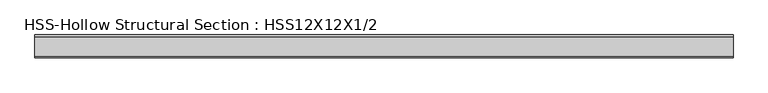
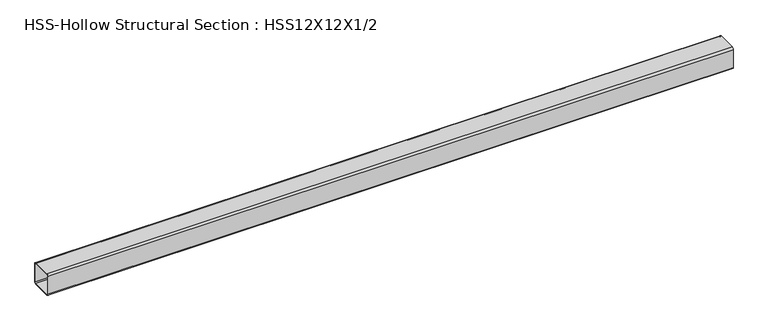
"""IFC4 building model written with IfcOpenShell, lengths in millimetres: beam geometry, HSS-Hollow Structural Section : HSS12X12X1/2."""

from ifc_helpers import new_model, si_unit, point, frame, frame_2d, origin, place, context, project, spatial, polyline, circle_curve, trimmed, segment, composite_curve, outline, extrude, source, transform, mapped, element, save


def hss_hollow_structural_section_hss12x12x1_2_75c03b45(model_context):
    return source(origin(), model_context, "Body", "SweptSolid", [
        extrude(outline(composite_curve([segment(polyline([(152.4, 128.778), (152.4, -128.778)]), True, "CONTINUOUS"), segment(trimmed(circle_curve(frame_2d((128.778, -128.778)), 23.622), [point((152.4, -128.778))], [point((128.778, -152.4))], False, "CARTESIAN"), True, "CONTINUOUS"), segment(polyline([(128.778, -152.4), (-128.778, -152.4)]), True, "CONTINUOUS"), segment(trimmed(circle_curve(frame_2d((-128.778, -128.778)), 23.622), [point((-128.778, -152.4))], [point((-152.4, -128.778))], False, "CARTESIAN"), True, "CONTINUOUS"), segment(polyline([(-152.4, -128.778), (-152.4, 128.778)]), True, "CONTINUOUS"), segment(trimmed(circle_curve(frame_2d((-128.778, 128.778)), 23.622), [point((-152.4, 128.778))], [point((-128.778, 152.4))], False, "CARTESIAN"), True, "CONTINUOUS"), segment(polyline([(-128.778, 152.4), (128.778, 152.4)]), True, "CONTINUOUS"), segment(trimmed(circle_curve(frame_2d((128.778, 128.778)), 23.622), [point((128.778, 152.4))], [point((152.4, 128.778))], False, "CARTESIAN"), True, "CONTINUOUS")], self_intersect=False), holes=[composite_curve([segment(trimmed(circle_curve(frame_2d((-128.778, 128.778)), 11.811), [point((-128.778, 140.589))], [point((-140.589, 128.778))], True, "CARTESIAN"), True, "CONTINUOUS"), segment(polyline([(-140.589, 128.778), (-140.589, -128.778)]), True, "CONTINUOUS"), segment(trimmed(circle_curve(frame_2d((-128.778, -128.778)), 11.811), [point((-140.589, -128.778))], [point((-128.778, -140.589))], True, "CARTESIAN"), True, "CONTINUOUS"), segment(polyline([(-128.778, -140.589), (128.778, -140.589)]), True, "CONTINUOUS"), segment(trimmed(circle_curve(frame_2d((128.778, -128.778)), 11.811), [point((128.778, -140.589))], [point((140.589, -128.778))], True, "CARTESIAN"), True, "CONTINUOUS"), segment(polyline([(140.589, -128.778), (140.589, 128.778)]), True, "CONTINUOUS"), segment(trimmed(circle_curve(frame_2d((128.778, 128.778)), 11.811), [point((140.589, 128.778))], [point((128.778, 140.589))], True, "CARTESIAN"), True, "CONTINUOUS"), segment(polyline([(128.778, 140.589), (-128.778, 140.589)]), True, "CONTINUOUS")], self_intersect=False)]), frame((-4705.4254912, 0.0, 0.0), z_axis=(1.0, 0.0, 0.0), x_axis=(0.0, 1.0, 0.0)), (0.0, 0.0, 1.0), 9256.6663725),
    ])


if __name__ == "__main__":
    model = new_model("IFC4")
    model_context = context("Model", 3, world=origin())
    ifc_project = project(units=[si_unit("LENGTHUNIT", "METRE", prefix="MILLI")], contexts=[model_context])
    site = spatial("IfcSite", under=ifc_project)
    building = spatial("IfcBuilding", under=site)
    placement = place(None, origin())
    hss_hollow_structural_section_hss12x12x1_2_shape = hss_hollow_structural_section_hss12x12x1_2_75c03b45(model_context)
    element("IfcBeam", 1, ObjectType="HSS-Hollow Structural Section : HSS12X12X1/2", at=placement, inside=building, context=model_context, shape_type="MappedRepresentation", body=[
        mapped(hss_hollow_structural_section_hss12x12x1_2_shape, transform((0.0, 0.0, 0.0), x_axis=(1.0, 0.0, 0.0), y_axis=(0.0, 1.0, 0.0), z_axis=(0.0, 0.0, 1.0))),
    ])
    save(model, "model.ifc")
